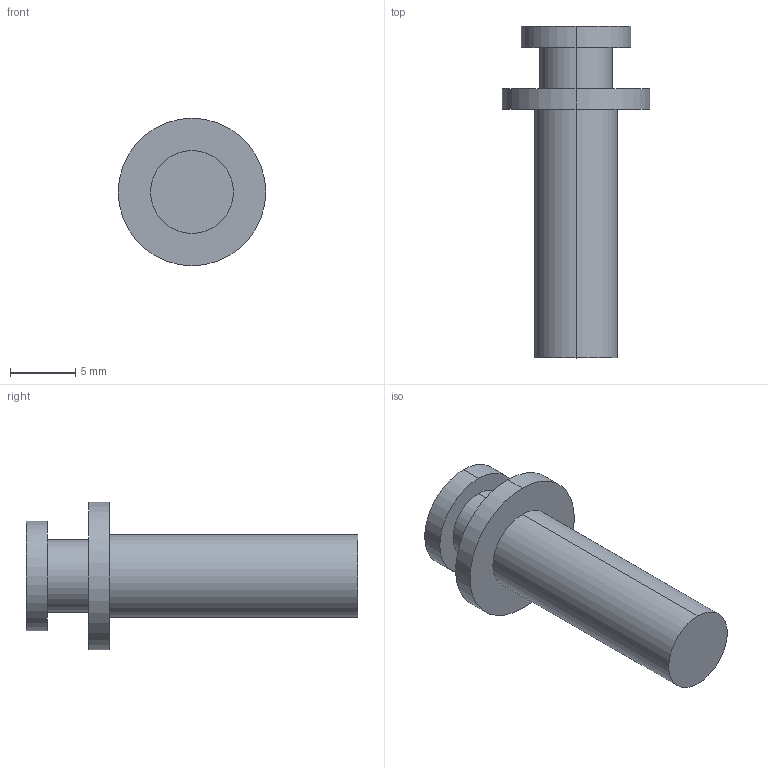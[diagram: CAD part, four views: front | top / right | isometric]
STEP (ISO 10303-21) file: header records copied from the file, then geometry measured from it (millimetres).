
FILE_DESCRIPTION (( 'STEP AP214' ), '1' );
FILE_NAME ('6065_V01_REF_PRT_SH_SCR.STEP', '2026-01-20T15:28:33', ( '' ), ( '' ), 'SwSTEP 2.0', 'SolidWorks 2025', '' );
FILE_SCHEMA (( 'AUTOMOTIVE_DESIGN' ));
Length unit declared in the file: inch
Products named in the file (1): 6065_V01_REF_PRT_SH_SCR
Bounding box: 11.3 x 25.42 x 11.3 mm (x, y, z)
Volume: 927 mm3; surface area: 796.7 mm2
Topology: 1 solids, 1 shells, 13 faces, 24 edges, 16 vertices
Faces by surface type: cylinder 8, plane 5
Entity records: 361 total; most frequent: DIRECTION 68, CARTESIAN_POINT 54, ORIENTED_EDGE 48, AXIS2_PLACEMENT_3D 30, EDGE_CURVE 24, EDGE_LOOP 16, VERTEX_POINT 16, CIRCLE 16
